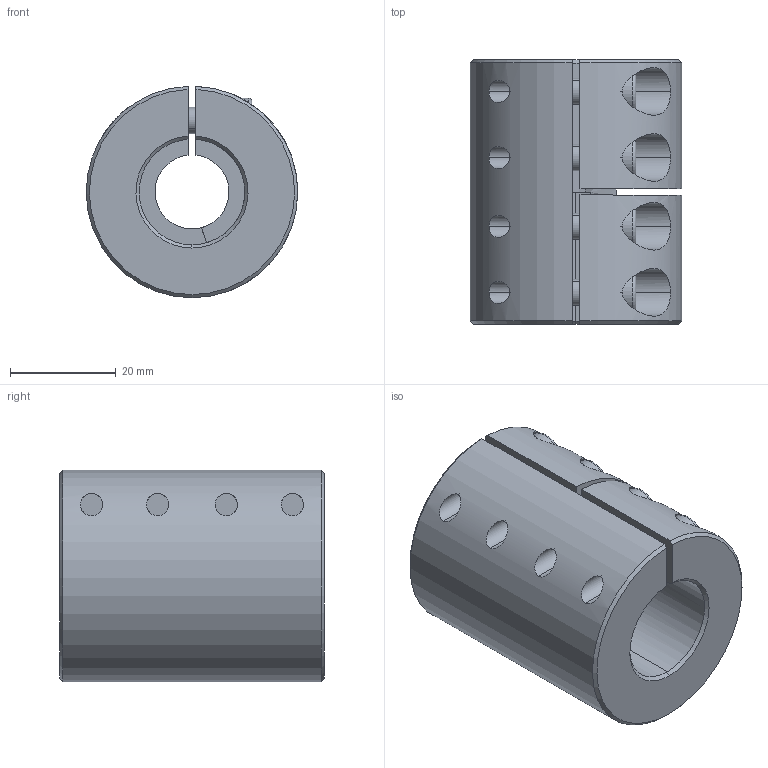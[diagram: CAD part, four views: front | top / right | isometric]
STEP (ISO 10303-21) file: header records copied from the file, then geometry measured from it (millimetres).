
FILE_DESCRIPTION (( 'STEP AP214' ), '1' );
FILE_NAME ('LL-B-D40L50-14-20½¨Ä£.STEP', '2022-07-22T00:25:30', ( '' ), ( '' ), 'SwSTEP 2.0', 'SolidWorks 2022', '' );
FILE_SCHEMA (( 'AUTOMOTIVE_DESIGN' ));
Length unit declared in the file: millimetre
Products named in the file (1): LL-B-D40L50-14-20膘耀
Bounding box: 40 x 50 x 39.99 mm (x, y, z)
Volume: 48247.5 mm3; surface area: 15400.8 mm2
Topology: 1 solids, 1 shells, 176 faces, 444 edges, 278 vertices
Faces by surface type: plane 84, cylinder 70, cone 14, torus 8
Entity records: 5801 total; most frequent: CARTESIAN_POINT 1475, DIRECTION 941, ORIENTED_EDGE 872, EDGE_CURVE 436, AXIS2_PLACEMENT_3D 368, VERTEX_POINT 278, EDGE_LOOP 208, VECTOR 205
